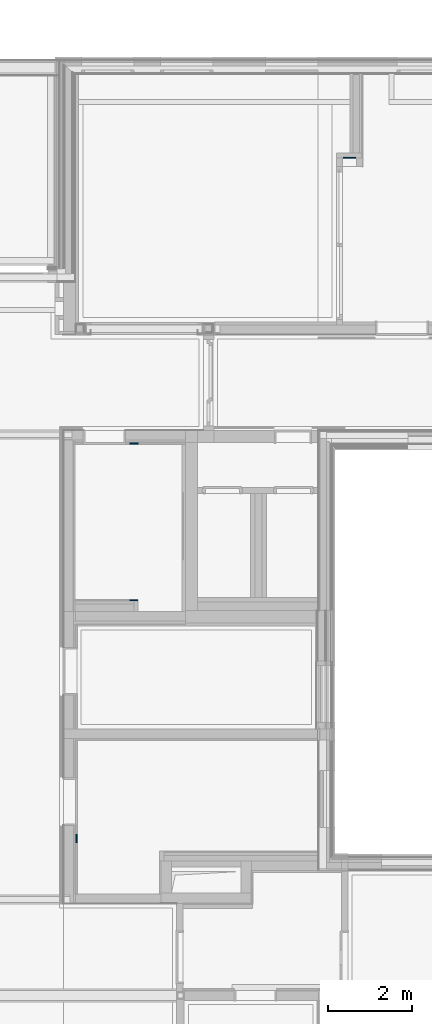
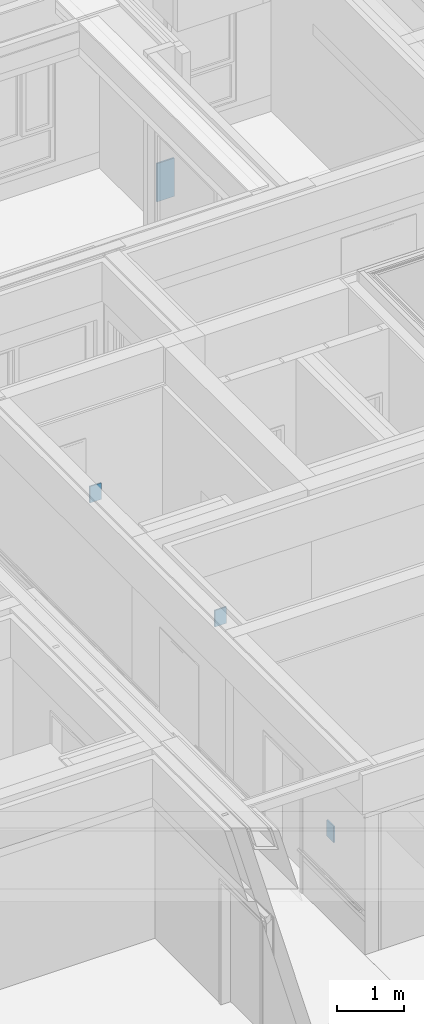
# One storey, part 155 of 207: 4 walls.
"""IFC4 building model written with IfcOpenShell, lengths in metres."""

from ifc_helpers import new_model, entity, si_unit, converted_unit, derived_unit, frame, origin, place, context, subcontext, project, spatial, faceted_brep, element, save


model = new_model("IFC4")

# Units and contexts
model_context = context("Model", 3, precision=1e-05, world=origin())
body_context = subcontext(model_context, "Body", "Model", "MODEL_VIEW")
ifc_project = project(units=[si_unit("LENGTHUNIT", "METRE"), si_unit("AREAUNIT", "SQUARE_METRE"), si_unit("VOLUMEUNIT", "CUBIC_METRE"), si_unit("MASSUNIT", "GRAM", prefix="KILO"), converted_unit("PLANEANGLEUNIT", "DEGREE", entity("IfcPlaneAngleMeasure", 0.0174532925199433), si_unit("PLANEANGLEUNIT", "RADIAN"), dimensions=[0, 0, 0, 0, 0, 0, 0]), derived_unit("THERMALTRANSMITTANCEUNIT", [(si_unit("POWERUNIT", "WATT"), 1), (si_unit("THERMODYNAMICTEMPERATUREUNIT", "KELVIN"), -1), (si_unit("LENGTHUNIT", "METRE"), -2)]), derived_unit("VOLUMETRICFLOWRATEUNIT", [(si_unit("LENGTHUNIT", "METRE"), 3), (converted_unit("TIMEUNIT", "hour", entity("IfcTimeMeasure", 3600.0), si_unit("TIMEUNIT", "SECOND"), dimensions=[0, 0, 1, 0, 0, 0, 0]), -1), (si_unit("LENGTHUNIT", "METRE"), -1)])], contexts=[model_context])

# Site, building, storey
site_placement = place(None, origin())
site = spatial("IfcSite", under=ifc_project, at=site_placement, Name="Psychiatrie Neubau Wunstorf", CompositionType="ELEMENT")
building_placement = place(site_placement, origin())
building = spatial("IfcBuilding", under=site, at=building_placement, Name="Neubau H2 Stationsgebäude", CompositionType="ELEMENT")
storey_placement = place(building_placement, frame((0.0, 0.0, -0.2)))
storey = spatial("IfcBuildingStorey", under=building, at=storey_placement, Name="H2 Ebene 0", CompositionType="ELEMENT", Elevation=-0.2)

# Walls
wall_1_placement = place(storey_placement, frame((39.4545, 20.2644980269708, 1.26)))
element("IfcWall", 1, at=wall_1_placement, inside=storey, Name="WV 1.1", context=body_context, shape_type="Brep", body=[
    faceted_brep([(0.2, 0.0, 0.0), (0.2, 0.025, 0.0), (0.0, 0.025, 0.0), (0.0, 0.0, 0.0), (0.2, 0.025, 0.3), (0.2, 0.0, 0.3), (0.0, 0.0, 0.3), (0.0, 0.025, 0.3)], [[[0, 1, 2, 3]], [[4, 5, 6, 7]], [[1, 0, 5, 4]], [[2, 1, 4, 7]], [[3, 2, 7, 6]], [[0, 3, 6, 5]]], orient=[[False], [False], [False], [False], [False], [False]]),
])
wall_2_placement = place(storey_placement, frame((38.179, 10.7759962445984, 1.26)))
element("IfcWall", 2, at=wall_2_placement, inside=storey, Name="WV 1.1", context=body_context, shape_type="Brep", body=[
    faceted_brep([(0.0, 0.0, 0.0), (0.025, 0.0, 0.0), (0.025, 0.2, 0.0), (0.0, 0.2, 0.0), (0.025, 0.0, 0.3), (0.0, 0.0, 0.3), (0.0, 0.2, 0.3), (0.025, 0.2, 0.3)], [[[0, 1, 2, 3]], [[4, 5, 6, 7]], [[1, 0, 5, 4]], [[2, 1, 4, 7]], [[3, 2, 7, 6]], [[0, 3, 6, 5]]], orient=[[False], [False], [False], [False], [False], [False]]),
])
wall_3_placement = place(storey_placement, frame((39.454, 16.5320060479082, 1.26)))
element("IfcWall", 3, at=wall_3_placement, inside=storey, Name="WV 1.1", context=body_context, shape_type="Brep", body=[
    faceted_brep([(0.2, 0.0, 0.0), (0.2, 0.025, 0.0), (0.0, 0.025, 0.0), (0.0, 0.0, 0.0), (0.2, 0.025, 0.3), (0.2, 0.0, 0.3), (0.0, 0.0, 0.3), (0.0, 0.025, 0.3)], [[[0, 1, 2, 3]], [[4, 5, 6, 7]], [[1, 0, 5, 4]], [[2, 1, 4, 7]], [[3, 2, 7, 6]], [[0, 3, 6, 5]]], orient=[[False], [False], [False], [False], [False], [False]]),
])
wall_4_placement = place(storey_placement, frame((44.5375, 27.0639996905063, 0.85)))
element("IfcWall", 4, at=wall_4_placement, inside=storey, Name="WV 1.1", context=body_context, shape_type="Brep", body=[
    faceted_brep([(0.0, 0.025, 0.0), (0.0, 0.0, 0.0), (0.3, 0.0, 0.0), (0.3, 0.025, 0.0), (0.0, 0.0, 0.7), (0.0, 0.025, 0.7), (0.3, 0.025, 0.7), (0.3, 0.0, 0.7)], [[[0, 1, 2, 3]], [[4, 5, 6, 7]], [[1, 0, 5, 4]], [[2, 1, 4, 7]], [[3, 2, 7, 6]], [[0, 3, 6, 5]]], orient=[[False], [False], [False], [False], [False], [False]]),
])

save(model, "model.ifc")
